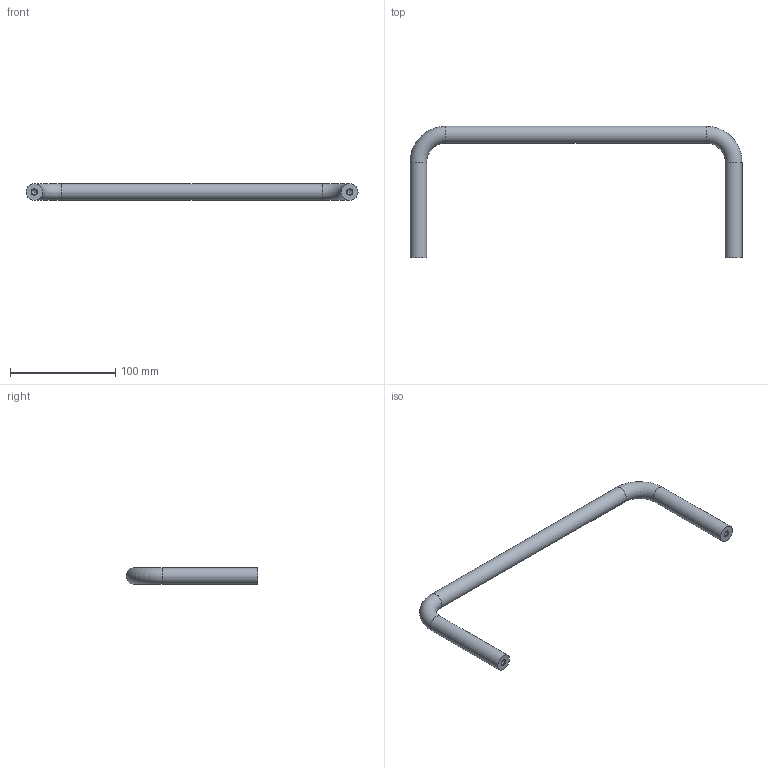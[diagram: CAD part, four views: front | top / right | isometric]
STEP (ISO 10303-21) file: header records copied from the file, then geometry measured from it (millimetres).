
FILE_DESCRIPTION(/* description */ ('STEP AP214'),/* implementation_level */ '2;1');
FILE_NAME(/* name */ 'Cabinet U-Handle_ Stainless Steel GN 435-NI-16-300-125-GS',/* time_stamp */ '2023-12-15T08:45:38+01:00',/* author */ ('License CC BY-ND 4.0'),/* organization */ ('CADENAS'),/* preprocessor_version */ 'ST-DEVELOPER v19.3',/* originating_system */ 'PARTsolutions',/* authorisation */ ' ');
FILE_SCHEMA (('AUTOMOTIVE_DESIGN {1 0 10303 214 3 1 1}'));
Length unit declared in the file: millimetre
Products named in the file (1): Cabinet U-Handle, Stainless Steel GN 435-NI-16-300-125-GS
Bounding box: 316 x 125 x 16 mm (x, y, z)
Volume: 102248.5 mm3; surface area: 26613.6 mm2
Topology: 1 solids, 1 shells, 13 faces, 30 edges, 19 vertices
Faces by surface type: cylinder 5, cone 4, plane 2, torus 2
Full cylindrical faces by diameter (mm): 4.917 x2, 16 x3
Entity records: 292 total; most frequent: DIRECTION 52, CARTESIAN_POINT 40, FACE_BOUND 26, AXIS2_PLACEMENT_3D 26, ORIENTED_EDGE 24, EDGE_LOOP 24, VERTEX_POINT 14, ADVANCED_FACE 13
